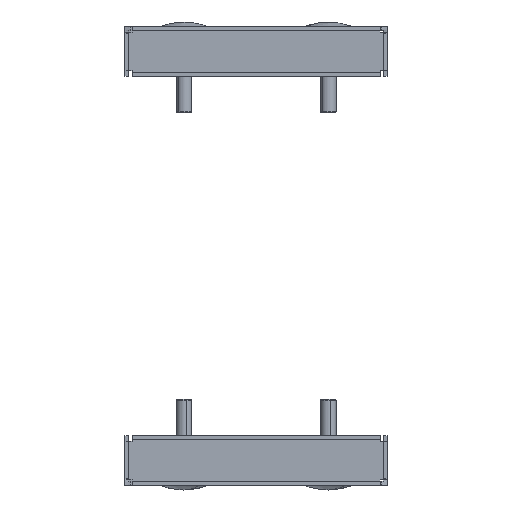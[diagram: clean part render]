
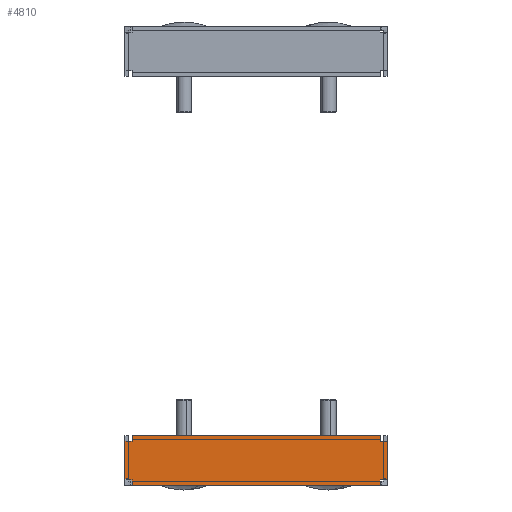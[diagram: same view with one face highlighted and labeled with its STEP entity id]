
A CAD part, left-side view. The second image highlights one B-rep face of the part: STEP entity #4810.
In plain terms, the highlighted planar face has unit normal (-1, 0, 0).
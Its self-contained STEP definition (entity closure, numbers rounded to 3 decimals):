
#194 = CARTESIAN_POINT ( 'NONE',  ( -399.5, -47.3, 17.5 ) ) ;
#235 = LINE ( 'NONE', #5710, #740 ) ;
#305 = CARTESIAN_POINT ( 'NONE',  ( -399.5, 47.9, 15.4 ) ) ;
#312 = VERTEX_POINT ( 'NONE', #6610 ) ;
#740 = VECTOR ( 'NONE', #3223, 1000. ) ;
#759 = CARTESIAN_POINT ( 'NONE',  ( -399.5, -47.3, -1.5 ) ) ;
#773 = EDGE_CURVE ( 'NONE', #8320, #6970, #7699, .T. ) ;
#837 = ORIENTED_EDGE ( 'NONE', *, *, #8748, .F. ) ;
#890 = EDGE_CURVE ( 'NONE', #4768, #3568, #7139, .T. ) ;
#909 = CARTESIAN_POINT ( 'NONE',  ( -399.5, 48.599, 0.674 ) ) ;
#937 = AXIS2_PLACEMENT_3D ( 'NONE', #6082, #9152, #7627 ) ;
#953 = ORIENTED_EDGE ( 'NONE', *, *, #5764, .T. ) ;
#1087 = ORIENTED_EDGE ( 'NONE', *, *, #8350, .T. ) ;
#1117 = LINE ( 'NONE', #4196, #9001 ) ;
#1233 = CARTESIAN_POINT ( 'NONE',  ( -399.5, -50., 0.777 ) ) ;
#1340 = ORIENTED_EDGE ( 'NONE', *, *, #8664, .F. ) ;
#1373 = VERTEX_POINT ( 'NONE', #4149 ) ;
#1519 = LINE ( 'NONE', #5244, #9102 ) ;
#1524 = ORIENTED_EDGE ( 'NONE', *, *, #2285, .F. ) ;
#1540 = CARTESIAN_POINT ( 'NONE',  ( -399.5, -47.9, 15.4 ) ) ;
#1598 = VECTOR ( 'NONE', #9273, 1000. ) ;
#1654 = EDGE_CURVE ( 'NONE', #5932, #9664, #1519, .T. ) ;
#1655 = CARTESIAN_POINT ( 'NONE',  ( -399.5, 47.3, 0. ) ) ;
#1671 = LINE ( 'NONE', #5357, #1598 ) ;
#1680 = CARTESIAN_POINT ( 'NONE',  ( -399.5, 47.9, 15.4 ) ) ;
#1773 = EDGE_CURVE ( 'NONE', #3187, #1373, #4285, .T. ) ;
#1879 = CARTESIAN_POINT ( 'NONE',  ( -399.5, 47.9, 15.4 ) ) ;
#1907 = CARTESIAN_POINT ( 'NONE',  ( -399.5, -50., 0.777 ) ) ;
#1960 = CARTESIAN_POINT ( 'NONE',  ( -399.5, -49.299, 0.734 ) ) ;
#2097 = VECTOR ( 'NONE', #4626, 1000. ) ;
#2143 = EDGE_CURVE ( 'NONE', #1373, #7783, #8311, .T. ) ;
#2250 = CARTESIAN_POINT ( 'NONE',  ( -399.5, -47.9, 0.6 ) ) ;
#2265 = CARTESIAN_POINT ( 'NONE',  ( -399.5, 0., 15.4 ) ) ;
#2284 = CARTESIAN_POINT ( 'NONE',  ( -399.5, 0., 17.5 ) ) ;
#2285 = EDGE_CURVE ( 'NONE', #8398, #4768, #3973, .T. ) ;
#2363 = ORIENTED_EDGE ( 'NONE', *, *, #9185, .T. ) ;
#2373 = EDGE_CURVE ( 'NONE', #7783, #6677, #235, .T. ) ;
#2461 = DIRECTION ( 'NONE',  ( 0., 0., 1. ) ) ;
#2571 = VECTOR ( 'NONE', #7057, 1000. ) ;
#2624 = CARTESIAN_POINT ( 'NONE',  ( -399.5, 49.649, 0.758 ) ) ;
#2933 = CARTESIAN_POINT ( 'NONE',  ( -399.5, 47.9, 0.6 ) ) ;
#3021 = PLANE ( 'NONE',  #937 ) ;
#3163 = CARTESIAN_POINT ( 'NONE',  ( -399.5, -47.9, 15.4 ) ) ;
#3181 = ORIENTED_EDGE ( 'NONE', *, *, #9706, .T. ) ;
#3183 = LINE ( 'NONE', #7904, #6128 ) ;
#3187 = VERTEX_POINT ( 'NONE', #7051 ) ;
#3223 = DIRECTION ( 'NONE',  ( 0., 0., -1. ) ) ;
#3276 = LINE ( 'NONE', #9217, #7195 ) ;
#3384 = VECTOR ( 'NONE', #4756, 1000. ) ;
#3388 = DIRECTION ( 'NONE',  ( 0., -1., 0. ) ) ;
#3444 = DIRECTION ( 'NONE',  ( 0., 0., -1. ) ) ;
#3568 = VERTEX_POINT ( 'NONE', #5920 ) ;
#3660 = LINE ( 'NONE', #5266, #6396 ) ;
#3869 = FACE_OUTER_BOUND ( 'NONE', #4165, .T. ) ;
#3890 = CARTESIAN_POINT ( 'NONE',  ( -399.5, 47.3, -1.5 ) ) ;
#3973 = LINE ( 'NONE', #305, #9582 ) ;
#4081 = VECTOR ( 'NONE', #8309, 1000. ) ;
#4149 = CARTESIAN_POINT ( 'NONE',  ( -399.5, 47.9, 0.6 ) ) ;
#4165 = EDGE_LOOP ( 'NONE', ( #3181, #9007, #837, #4531, #1524, #1087, #953, #5177, #6806, #6228, #2363, #1340, #9817, #6121, #9553, #9222 ) ) ;
#4196 = CARTESIAN_POINT ( 'NONE',  ( -399.5, -50., 0. ) ) ;
#4285 = B_SPLINE_CURVE_WITH_KNOTS ( 'NONE', 3,
 ( #7914, #2624, #7206, #909, #4744, #7099 ),
 .UNSPECIFIED., .F., .F.,
 ( 4, 2, 4 ),
 ( 0.006, 0.007, 0.008 ),
 .UNSPECIFIED. ) ;
#4531 = ORIENTED_EDGE ( 'NONE', *, *, #890, .F. ) ;
#4626 = DIRECTION ( 'NONE',  ( 0., 1., 0. ) ) ;
#4744 = CARTESIAN_POINT ( 'NONE',  ( -399.5, 48.249, 0.637 ) ) ;
#4756 = DIRECTION ( 'NONE',  ( 0., 1., 0. ) ) ;
#4768 = VERTEX_POINT ( 'NONE', #8447 ) ;
#4810 = ADVANCED_FACE ( 'NONE', ( #3869 ), #3021, .F. ) ;
#4824 = VERTEX_POINT ( 'NONE', #2250 ) ;
#4878 = CARTESIAN_POINT ( 'NONE',  ( -399.5, -48.249, 0.637 ) ) ;
#5177 = ORIENTED_EDGE ( 'NONE', *, *, #1773, .T. ) ;
#5244 = CARTESIAN_POINT ( 'NONE',  ( -399.5, -47.3, 15.4 ) ) ;
#5266 = CARTESIAN_POINT ( 'NONE',  ( -399.5, -47.9, 0.6 ) ) ;
#5344 = DIRECTION ( 'NONE',  ( 0., 0., -1. ) ) ;
#5357 = CARTESIAN_POINT ( 'NONE',  ( -399.5, -47.3, 0. ) ) ;
#5525 = VERTEX_POINT ( 'NONE', #759 ) ;
#5710 = CARTESIAN_POINT ( 'NONE',  ( -399.5, 47.3, 0.6 ) ) ;
#5764 = EDGE_CURVE ( 'NONE', #312, #3187, #3276, .T. ) ;
#5900 = EDGE_CURVE ( 'NONE', #4824, #9639, #3660, .T. ) ;
#5920 = CARTESIAN_POINT ( 'NONE',  ( -399.5, 47.3, 17.5 ) ) ;
#5932 = VERTEX_POINT ( 'NONE', #8397 ) ;
#6037 = CARTESIAN_POINT ( 'NONE',  ( -399.5, 47.3, 0.6 ) ) ;
#6082 = CARTESIAN_POINT ( 'NONE',  ( -399.5, 0., 0. ) ) ;
#6121 = ORIENTED_EDGE ( 'NONE', *, *, #9396, .T. ) ;
#6128 = VECTOR ( 'NONE', #9211, 1000. ) ;
#6228 = ORIENTED_EDGE ( 'NONE', *, *, #2373, .T. ) ;
#6267 = LINE ( 'NONE', #2284, #2571 ) ;
#6290 = LINE ( 'NONE', #1540, #2097 ) ;
#6396 = VECTOR ( 'NONE', #7520, 1000. ) ;
#6446 = CARTESIAN_POINT ( 'NONE',  ( -399.5, -48.599, 0.674 ) ) ;
#6455 = CARTESIAN_POINT ( 'NONE',  ( -399.5, -50., 15.4 ) ) ;
#6610 = CARTESIAN_POINT ( 'NONE',  ( -399.5, 50., 15.4 ) ) ;
#6677 = VERTEX_POINT ( 'NONE', #3890 ) ;
#6806 = ORIENTED_EDGE ( 'NONE', *, *, #2143, .T. ) ;
#6932 = B_SPLINE_CURVE_WITH_KNOTS ( 'NONE', 3,
 ( #8854, #4878, #6446, #1960, #9512, #1907 ),
 .UNSPECIFIED., .F., .F.,
 ( 4, 2, 4 ),
 ( 0.006, 0.007, 0.008 ),
 .UNSPECIFIED. ) ;
#6970 = VERTEX_POINT ( 'NONE', #6455 ) ;
#7051 = CARTESIAN_POINT ( 'NONE',  ( -399.5, 50., 0.777 ) ) ;
#7057 = DIRECTION ( 'NONE',  ( 0., -1., 0. ) ) ;
#7099 = CARTESIAN_POINT ( 'NONE',  ( -399.5, 47.9, 0.6 ) ) ;
#7139 = LINE ( 'NONE', #1655, #7612 ) ;
#7195 = VECTOR ( 'NONE', #5344, 1000. ) ;
#7206 = CARTESIAN_POINT ( 'NONE',  ( -399.5, 49.299, 0.734 ) ) ;
#7520 = DIRECTION ( 'NONE',  ( 0., 1., 0. ) ) ;
#7612 = VECTOR ( 'NONE', #2461, 1000. ) ;
#7627 = DIRECTION ( 'NONE',  ( 0., 0., -1. ) ) ;
#7699 = LINE ( 'NONE', #2265, #4081 ) ;
#7713 = DIRECTION ( 'NONE',  ( 0., 0., 1. ) ) ;
#7783 = VERTEX_POINT ( 'NONE', #6037 ) ;
#7805 = VECTOR ( 'NONE', #9886, 1000. ) ;
#7882 = LINE ( 'NONE', #1680, #3384 ) ;
#7904 = CARTESIAN_POINT ( 'NONE',  ( -399.5, 0., -1.5 ) ) ;
#7914 = CARTESIAN_POINT ( 'NONE',  ( -399.5, 50., 0.777 ) ) ;
#7940 = VERTEX_POINT ( 'NONE', #1233 ) ;
#8309 = DIRECTION ( 'NONE',  ( 0., -1., 0. ) ) ;
#8311 = LINE ( 'NONE', #2933, #7805 ) ;
#8320 = VERTEX_POINT ( 'NONE', #3163 ) ;
#8350 = EDGE_CURVE ( 'NONE', #8398, #312, #7882, .T. ) ;
#8397 = CARTESIAN_POINT ( 'NONE',  ( -399.5, -47.3, 15.4 ) ) ;
#8398 = VERTEX_POINT ( 'NONE', #1879 ) ;
#8447 = CARTESIAN_POINT ( 'NONE',  ( -399.5, 47.3, 15.4 ) ) ;
#8664 = EDGE_CURVE ( 'NONE', #9639, #5525, #1671, .T. ) ;
#8748 = EDGE_CURVE ( 'NONE', #3568, #9664, #6267, .T. ) ;
#8854 = CARTESIAN_POINT ( 'NONE',  ( -399.5, -47.9, 0.6 ) ) ;
#8927 = EDGE_CURVE ( 'NONE', #6970, #7940, #1117, .T. ) ;
#9001 = VECTOR ( 'NONE', #3444, 1000. ) ;
#9007 = ORIENTED_EDGE ( 'NONE', *, *, #1654, .T. ) ;
#9102 = VECTOR ( 'NONE', #7713, 1000. ) ;
#9152 = DIRECTION ( 'NONE',  ( 1., 0., 0. ) ) ;
#9185 = EDGE_CURVE ( 'NONE', #6677, #5525, #3183, .T. ) ;
#9211 = DIRECTION ( 'NONE',  ( 0., -1., 0. ) ) ;
#9217 = CARTESIAN_POINT ( 'NONE',  ( -399.5, 50., 0. ) ) ;
#9222 = ORIENTED_EDGE ( 'NONE', *, *, #773, .F. ) ;
#9246 = CARTESIAN_POINT ( 'NONE',  ( -399.5, -47.3, 0.6 ) ) ;
#9273 = DIRECTION ( 'NONE',  ( 0., 0., -1. ) ) ;
#9396 = EDGE_CURVE ( 'NONE', #4824, #7940, #6932, .T. ) ;
#9512 = CARTESIAN_POINT ( 'NONE',  ( -399.5, -49.649, 0.758 ) ) ;
#9553 = ORIENTED_EDGE ( 'NONE', *, *, #8927, .F. ) ;
#9582 = VECTOR ( 'NONE', #3388, 1000. ) ;
#9639 = VERTEX_POINT ( 'NONE', #9246 ) ;
#9664 = VERTEX_POINT ( 'NONE', #194 ) ;
#9706 = EDGE_CURVE ( 'NONE', #8320, #5932, #6290, .T. ) ;
#9817 = ORIENTED_EDGE ( 'NONE', *, *, #5900, .F. ) ;
#9886 = DIRECTION ( 'NONE',  ( 0., -1., 0. ) ) ;
